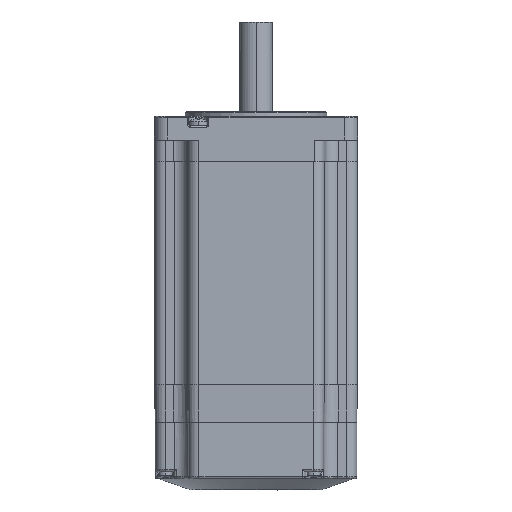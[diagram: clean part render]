
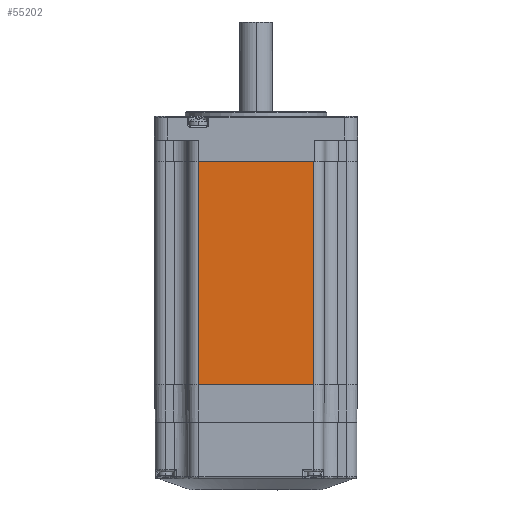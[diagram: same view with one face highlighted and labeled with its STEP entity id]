
A CAD part, front view. The second image highlights one B-rep face of the part: STEP entity #55202.
In plain terms, the highlighted planar face has unit normal (0, -1, 0).
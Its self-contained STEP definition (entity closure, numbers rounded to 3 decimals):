
#3468 = EDGE_CURVE ( 'NONE', #11597, #32753, #35156, .T. ) ;
#7254 = CARTESIAN_POINT ( 'NONE',  ( -24.5, -43., 0. ) ) ;
#9020 = EDGE_CURVE ( 'NONE', #22456, #13258, #14733, .T. ) ;
#10547 = DIRECTION ( 'NONE',  ( 0., 0., -1. ) ) ;
#11597 = VERTEX_POINT ( 'NONE', #33690 ) ;
#13162 = ORIENTED_EDGE ( 'NONE', *, *, #55787, .T. ) ;
#13258 = VERTEX_POINT ( 'NONE', #52841 ) ;
#13506 = DIRECTION ( 'NONE',  ( 0., 0., -1. ) ) ;
#14733 = LINE ( 'NONE', #27827, #38861 ) ;
#15113 = CARTESIAN_POINT ( 'NONE',  ( 24.5, -43., -94.5 ) ) ;
#17047 = CARTESIAN_POINT ( 'NONE',  ( -43., -43., 0. ) ) ;
#18667 = DIRECTION ( 'NONE',  ( 1., 0., 0. ) ) ;
#22287 = VECTOR ( 'NONE', #10547, 1000. ) ;
#22456 = VERTEX_POINT ( 'NONE', #7254 ) ;
#22507 = ORIENTED_EDGE ( 'NONE', *, *, #9020, .T. ) ;
#23481 = CARTESIAN_POINT ( 'NONE',  ( -24.5, -43., -94.5 ) ) ;
#24530 = CARTESIAN_POINT ( 'NONE',  ( 24.5, -43., -94.5 ) ) ;
#27392 = DIRECTION ( 'NONE',  ( 0., 0., -1. ) ) ;
#27827 = CARTESIAN_POINT ( 'NONE',  ( -24.5, -43., -94.5 ) ) ;
#29433 = VECTOR ( 'NONE', #60672, 1000. ) ;
#32067 = DIRECTION ( 'NONE',  ( 0., -1., 0. ) ) ;
#32753 = VERTEX_POINT ( 'NONE', #24530 ) ;
#33509 = LINE ( 'NONE', #23481, #56139 ) ;
#33690 = CARTESIAN_POINT ( 'NONE',  ( 24.5, -43., 0. ) ) ;
#34031 = EDGE_CURVE ( 'NONE', #22456, #11597, #42237, .T. ) ;
#35156 = LINE ( 'NONE', #15113, #22287 ) ;
#38861 = VECTOR ( 'NONE', #13506, 1000. ) ;
#42237 = LINE ( 'NONE', #17047, #29433 ) ;
#43349 = FACE_OUTER_BOUND ( 'NONE', #51279, .T. ) ;
#44546 = ORIENTED_EDGE ( 'NONE', *, *, #3468, .F. ) ;
#45845 = AXIS2_PLACEMENT_3D ( 'NONE', #51480, #32067, #27392 ) ;
#50349 = ORIENTED_EDGE ( 'NONE', *, *, #34031, .F. ) ;
#51279 = EDGE_LOOP ( 'NONE', ( #50349, #22507, #13162, #44546 ) ) ;
#51480 = CARTESIAN_POINT ( 'NONE',  ( -24.5, -43., -94.5 ) ) ;
#52841 = CARTESIAN_POINT ( 'NONE',  ( -24.5, -43., -94.5 ) ) ;
#55202 = ADVANCED_FACE ( 'NONE', ( #43349 ), #56292, .T. ) ;
#55787 = EDGE_CURVE ( 'NONE', #13258, #32753, #33509, .T. ) ;
#56139 = VECTOR ( 'NONE', #18667, 1000. ) ;
#56292 = PLANE ( 'NONE',  #45845 ) ;
#60672 = DIRECTION ( 'NONE',  ( 1., 0., 0. ) ) ;
